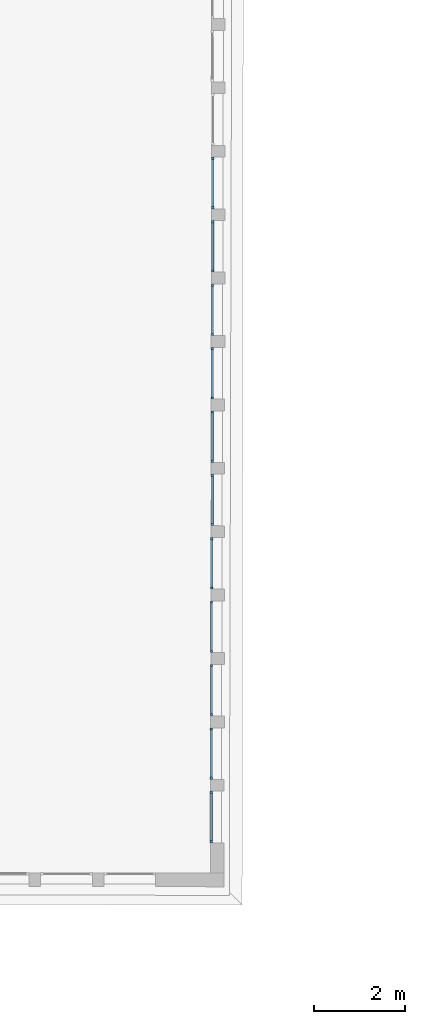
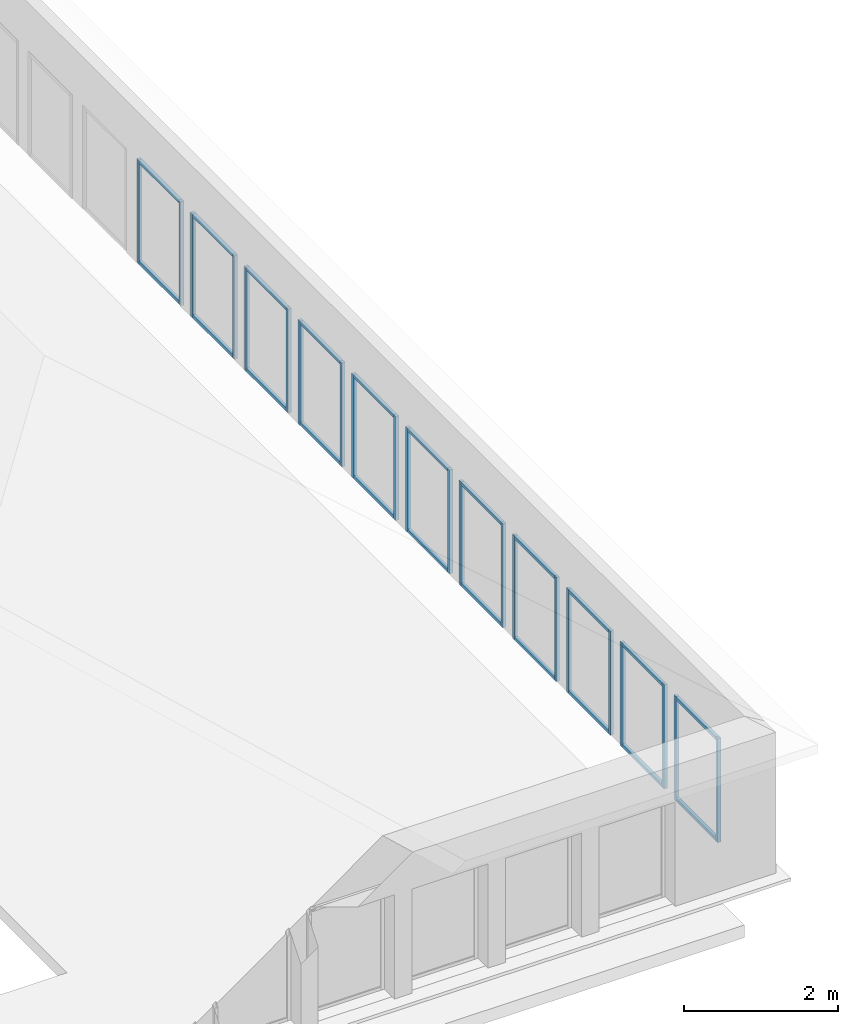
# One storey, part 11 of 26: 44 members, 11 elements without a shape of their own.
"""IFC2X3 building model written with IfcOpenShell, lengths in metres."""

from ifc_helpers import new_model, entity, si_unit, converted_unit, derived_unit, direction, frame, origin, origin_2d_with_axis, place, context, subcontext, project, spatial, rectangle, extrude, source, transform, mapped, material, type_object, type_shapes, element, aggregate, save


model = new_model("IFC2X3")

# Units and contexts
model_context = context("Model", 3, precision=1e-05, world=origin(), true_north=direction((6.123233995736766e-17, 1.0)))
body_context = subcontext(model_context, "Body", "Model", "MODEL_VIEW")
ifc_project = project(units=[si_unit("LENGTHUNIT", "METRE"), si_unit("AREAUNIT", "SQUARE_METRE"), converted_unit("PLANEANGLEUNIT", "DEGREE", entity("IfcPlaneAngleMeasure", 0.017453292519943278), si_unit("PLANEANGLEUNIT", "RADIAN"), dimensions=[0, 0, 0, 0, 0, 0, 0]), derived_unit("THERMALTRANSMITTANCEUNIT", [(si_unit("MASSUNIT", "GRAM", prefix="KILO"), 1), (si_unit("THERMODYNAMICTEMPERATUREUNIT", "KELVIN"), -1), (si_unit("TIMEUNIT", "SECOND"), -3)])], contexts=[model_context])

# Site, building, storey
site_placement = place(None, frame((1253.6752467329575, 2072.143113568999, 91.49999999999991), z_axis=(0.0, 0.0, 1.0), x_axis=(0.7237211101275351, 0.6900925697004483, 0.0)))
site = spatial("IfcSite", under=ifc_project, at=site_placement, Name="Surface", CompositionType="ELEMENT")
building_placement = place(site_placement, origin())
building = spatial("IfcBuilding", under=site, at=building_placement, CompositionType="ELEMENT")
storey_placement = place(building_placement, frame((0.0, 0.0, 7.0)))
storey = spatial("IfcBuildingStorey", under=building, at=storey_placement, Name="2-R+2", CompositionType="ELEMENT", Elevation=6.999999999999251)

# Curtain wall, member
curtain_wall_type = type_object("IfcCurtainWallType", Name="Mur-rideau:Menuiserie Ext 1F+1OB VERTIC", PredefinedType="NOTDEFINED")
curtain_wall_1_placement = place(storey_placement, frame((0.0, 0.0, -7.0)))
curtain_wall_1 = element("IfcCurtainWall", 1, at=curtain_wall_1_placement, inside=storey, type_object=curtain_wall_type, Name="Mur-rideau:Menuiserie Ext 1F+1OB VERTIC", ObjectType="Mur-rideau:Menuiserie Ext 1F+1OB VERTIC")
ifc_material = material(Name="OMD_Aluminium Men Ext")
member_type_1 = type_object("IfcMemberType", Name="Meneau rectangulaire:50x50", PredefinedType="MULLION", material=ifc_material)
shared_shape_1 = source(origin(), body_context, "Body", "SweptSolid", [
    extrude(rectangle(XDim=0.05, YDim=0.049999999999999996, at=origin_2d_with_axis()), frame((-0.025, 0.0, -1.6499999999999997), z_axis=(0.0, 0.0, 1.0), x_axis=(-1.0, 0.0, 0.0)), (0.0, 0.0, 1.0), 1.6499999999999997),
])
type_shapes(member_type_1, [shared_shape_1])
member_1_placement = place(curtain_wall_1_placement, frame((190.23566403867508, -17.83164811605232, 7.9), z_axis=(0.0, 0.0, -1.0), x_axis=(0.6909838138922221, 0.7228702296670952, 0.0)))
member_1 = element("IfcMember", 2, at=member_1_placement, type_object=member_type_1, material=ifc_material, Name="Meneau rectangulaire:50x50", ObjectType="Meneau rectangulaire:50x50", context=body_context, shape_type="MappedRepresentation", body=[
    mapped(shared_shape_1, transform((0.0, 0.0, 0.0), scale=1.0)),
])

curtain_wall_2_placement = place(storey_placement, frame((0.0, 0.0, -7.0)))
curtain_wall_2 = element("IfcCurtainWall", 3, at=curtain_wall_2_placement, inside=storey, type_object=curtain_wall_type, Name="Mur-rideau:Menuiserie Ext 1F+1OB VERTIC", ObjectType="Mur-rideau:Menuiserie Ext 1F+1OB VERTIC")
member_2_placement = place(curtain_wall_2_placement, frame((189.26689855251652, -18.842337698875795, 7.9), z_axis=(0.0, 0.0, -1.0), x_axis=(0.6909838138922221, 0.7228702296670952, 0.0)))
member_2 = element("IfcMember", 4, at=member_2_placement, type_object=member_type_1, material=ifc_material, Name="Meneau rectangulaire:50x50", ObjectType="Meneau rectangulaire:50x50", context=body_context, shape_type="MappedRepresentation", body=[
    mapped(shared_shape_1, transform((0.0, 0.0, 0.0), scale=1.0)),
])

curtain_wall_3_placement = place(storey_placement, frame((0.0, 0.0, -7.0)))
curtain_wall_3 = element("IfcCurtainWall", 5, at=curtain_wall_3_placement, inside=storey, type_object=curtain_wall_type, Name="Mur-rideau:Menuiserie Ext 1F+1OB VERTIC", ObjectType="Mur-rideau:Menuiserie Ext 1F+1OB VERTIC")
member_3_placement = place(curtain_wall_3_placement, frame((188.29813306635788, -19.853027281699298, 7.9), z_axis=(0.0, 0.0, -1.0), x_axis=(0.6909838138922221, 0.7228702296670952, 0.0)))
member_3 = element("IfcMember", 6, at=member_3_placement, type_object=member_type_1, material=ifc_material, Name="Meneau rectangulaire:50x50", ObjectType="Meneau rectangulaire:50x50", context=body_context, shape_type="MappedRepresentation", body=[
    mapped(shared_shape_1, transform((0.0, 0.0, 0.0), scale=1.0)),
])

curtain_wall_4_placement = place(storey_placement, frame((0.0, 0.0, -7.0)))
curtain_wall_4 = element("IfcCurtainWall", 7, at=curtain_wall_4_placement, inside=storey, type_object=curtain_wall_type, Name="Mur-rideau:Menuiserie Ext 1F+1OB VERTIC", ObjectType="Mur-rideau:Menuiserie Ext 1F+1OB VERTIC")
member_4_placement = place(curtain_wall_4_placement, frame((187.3293675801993, -20.863716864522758, 7.9), z_axis=(0.0, 0.0, -1.0), x_axis=(0.6909838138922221, 0.7228702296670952, 0.0)))
member_4 = element("IfcMember", 8, at=member_4_placement, type_object=member_type_1, material=ifc_material, Name="Meneau rectangulaire:50x50", ObjectType="Meneau rectangulaire:50x50", context=body_context, shape_type="MappedRepresentation", body=[
    mapped(shared_shape_1, transform((0.0, 0.0, 0.0), scale=1.0)),
])

curtain_wall_5_placement = place(storey_placement, frame((0.0, 0.0, -7.0)))
curtain_wall_5 = element("IfcCurtainWall", 9, at=curtain_wall_5_placement, inside=storey, type_object=curtain_wall_type, Name="Mur-rideau:Menuiserie Ext 1F+1OB VERTIC", ObjectType="Mur-rideau:Menuiserie Ext 1F+1OB VERTIC")
member_5_placement = place(curtain_wall_5_placement, frame((186.3606020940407, -21.874406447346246, 7.9), z_axis=(0.0, 0.0, -1.0), x_axis=(0.6909838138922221, 0.7228702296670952, 0.0)))
member_5 = element("IfcMember", 10, at=member_5_placement, type_object=member_type_1, material=ifc_material, Name="Meneau rectangulaire:50x50", ObjectType="Meneau rectangulaire:50x50", context=body_context, shape_type="MappedRepresentation", body=[
    mapped(shared_shape_1, transform((0.0, 0.0, 0.0), scale=1.0)),
])

curtain_wall_6_placement = place(storey_placement, frame((0.0, 0.0, -7.0)))
curtain_wall_6 = element("IfcCurtainWall", 11, at=curtain_wall_6_placement, inside=storey, type_object=curtain_wall_type, Name="Mur-rideau:Menuiserie Ext 1F+1OB VERTIC", ObjectType="Mur-rideau:Menuiserie Ext 1F+1OB VERTIC")
member_6_placement = place(curtain_wall_6_placement, frame((185.39794625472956, -22.885947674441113, 7.9), z_axis=(0.0, 0.0, -1.0), x_axis=(0.6909838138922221, 0.7228702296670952, 0.0)))
member_6 = element("IfcMember", 12, at=member_6_placement, type_object=member_type_1, material=ifc_material, Name="Meneau rectangulaire:50x50", ObjectType="Meneau rectangulaire:50x50", context=body_context, shape_type="MappedRepresentation", body=[
    mapped(shared_shape_1, transform((0.0, 0.0, 0.0), scale=1.0)),
])

curtain_wall_7_placement = place(storey_placement, frame((0.0, 0.0, -7.0)))
curtain_wall_7 = element("IfcCurtainWall", 13, at=curtain_wall_7_placement, inside=storey, type_object=curtain_wall_type, Name="Mur-rideau:Menuiserie Ext 1F+1OB VERTIC", ObjectType="Mur-rideau:Menuiserie Ext 1F+1OB VERTIC")
member_7_placement = place(curtain_wall_7_placement, frame((184.425571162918, -23.89317738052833, 7.9), z_axis=(0.0, 0.0, -1.0), x_axis=(0.6909838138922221, 0.7228702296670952, 0.0)))
member_7 = element("IfcMember", 14, at=member_7_placement, type_object=member_type_1, material=ifc_material, Name="Meneau rectangulaire:50x50", ObjectType="Meneau rectangulaire:50x50", context=body_context, shape_type="MappedRepresentation", body=[
    mapped(shared_shape_1, transform((0.0, 0.0, 0.0), scale=1.0)),
])

curtain_wall_8_placement = place(storey_placement, frame((0.0, 0.0, -7.0)))
curtain_wall_8 = element("IfcCurtainWall", 15, at=curtain_wall_8_placement, inside=storey, type_object=curtain_wall_type, Name="Mur-rideau:Menuiserie Ext 1F+1OB VERTIC", ObjectType="Mur-rideau:Menuiserie Ext 1F+1OB VERTIC")
member_8_placement = place(curtain_wall_8_placement, frame((183.45319607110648, -24.900407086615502, 7.9), z_axis=(0.0, 0.0, -1.0), x_axis=(0.6909838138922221, 0.7228702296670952, 0.0)))
member_8 = element("IfcMember", 16, at=member_8_placement, type_object=member_type_1, material=ifc_material, Name="Meneau rectangulaire:50x50", ObjectType="Meneau rectangulaire:50x50", context=body_context, shape_type="MappedRepresentation", body=[
    mapped(shared_shape_1, transform((0.0, 0.0, 0.0), scale=1.0)),
])

curtain_wall_9_placement = place(storey_placement, frame((0.0, 0.0, -7.0)))
curtain_wall_9 = element("IfcCurtainWall", 17, at=curtain_wall_9_placement, inside=storey, type_object=curtain_wall_type, Name="Mur-rideau:Menuiserie Ext 1F+1OB VERTIC", ObjectType="Mur-rideau:Menuiserie Ext 1F+1OB VERTIC")
member_9_placement = place(curtain_wall_9_placement, frame((182.48804019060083, -25.91455654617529, 7.9), z_axis=(0.0, 0.0, -1.0), x_axis=(0.6909838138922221, 0.7228702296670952, 0.0)))
member_9 = element("IfcMember", 18, at=member_9_placement, type_object=member_type_1, material=ifc_material, Name="Meneau rectangulaire:50x50", ObjectType="Meneau rectangulaire:50x50", context=body_context, shape_type="MappedRepresentation", body=[
    mapped(shared_shape_1, transform((0.0, 0.0, 0.0), scale=1.0)),
])

curtain_wall_10_placement = place(storey_placement, frame((0.0, 0.0, -7.0)))
curtain_wall_10 = element("IfcCurtainWall", 19, at=curtain_wall_10_placement, inside=storey, type_object=curtain_wall_type, Name="Mur-rideau:Menuiserie Ext 1F+1OB VERTIC", ObjectType="Mur-rideau:Menuiserie Ext 1F+1OB VERTIC")
member_10_placement = place(curtain_wall_10_placement, frame((181.51927470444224, -26.92524612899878, 7.9), z_axis=(0.0, 0.0, -1.0), x_axis=(0.6909838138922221, 0.7228702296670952, 0.0)))
member_10 = element("IfcMember", 20, at=member_10_placement, type_object=member_type_1, material=ifc_material, Name="Meneau rectangulaire:50x50", ObjectType="Meneau rectangulaire:50x50", context=body_context, shape_type="MappedRepresentation", body=[
    mapped(shared_shape_1, transform((0.0, 0.0, 0.0), scale=1.0)),
])

curtain_wall_11_placement = place(storey_placement, frame((0.0, 0.0, -7.0)))
curtain_wall_11 = element("IfcCurtainWall", 21, at=curtain_wall_11_placement, inside=storey, type_object=curtain_wall_type, Name="Mur-rideau:Menuiserie Ext 1F+1OB VERTIC", ObjectType="Mur-rideau:Menuiserie Ext 1F+1OB VERTIC")
member_11_placement = place(curtain_wall_11_placement, frame((180.5505033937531, -27.93594178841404, 7.9), z_axis=(0.0, 0.0, -1.0), x_axis=(0.6909838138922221, 0.7228702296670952, 0.0)))
member_11 = element("IfcMember", 22, at=member_11_placement, type_object=member_type_1, material=ifc_material, Name="Meneau rectangulaire:50x50", ObjectType="Meneau rectangulaire:50x50", context=body_context, shape_type="MappedRepresentation", body=[
    mapped(shared_shape_1, transform((0.0, 0.0, 0.0), scale=1.0)),
])

# Member
member_type_2 = type_object("IfcMemberType", Name="Meneau rectangulaire:50x50", PredefinedType="MULLION", material=ifc_material)
shared_shape_2 = source(origin(), body_context, "Body", "SweptSolid", [
    extrude(rectangle(XDim=0.05, YDim=0.049999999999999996, at=origin_2d_with_axis()), frame((-0.025, 0.0, -1.6499999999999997), z_axis=(0.0, 0.0, 1.0), x_axis=(-1.0, 0.0, 0.0)), (0.0, 0.0, 1.0), 1.6499999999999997),
])
type_shapes(member_type_2, [shared_shape_2])
member_12_placement = place(curtain_wall_1_placement, frame((189.447942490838, -18.655720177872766, 9.55), z_axis=(0.0, 0.0, 1.0), x_axis=(-0.6909838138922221, -0.7228702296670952, 0.0)))
member_12 = element("IfcMember", 23, at=member_12_placement, type_object=member_type_2, material=ifc_material, Name="Meneau rectangulaire:50x50", ObjectType="Meneau rectangulaire:50x50", context=body_context, shape_type="MappedRepresentation", body=[
    mapped(shared_shape_2, transform((0.0, 0.0, 0.0), scale=1.0)),
])

member_13_placement = place(curtain_wall_2_placement, frame((188.4791770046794, -19.666409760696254, 9.55), z_axis=(0.0, 0.0, 1.0), x_axis=(-0.6909838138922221, -0.7228702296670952, 0.0)))
member_13 = element("IfcMember", 24, at=member_13_placement, type_object=member_type_2, material=ifc_material, Name="Meneau rectangulaire:50x50", ObjectType="Meneau rectangulaire:50x50", context=body_context, shape_type="MappedRepresentation", body=[
    mapped(shared_shape_2, transform((0.0, 0.0, 0.0), scale=1.0)),
])

member_14_placement = place(curtain_wall_3_placement, frame((187.51041151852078, -20.677099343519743, 9.55), z_axis=(0.0, 0.0, 1.0), x_axis=(-0.6909838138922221, -0.7228702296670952, 0.0)))
member_14 = element("IfcMember", 25, at=member_14_placement, type_object=member_type_2, material=ifc_material, Name="Meneau rectangulaire:50x50", ObjectType="Meneau rectangulaire:50x50", context=body_context, shape_type="MappedRepresentation", body=[
    mapped(shared_shape_2, transform((0.0, 0.0, 0.0), scale=1.0)),
])

member_15_placement = place(curtain_wall_4_placement, frame((186.54164603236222, -21.68778892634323, 9.55), z_axis=(0.0, 0.0, 1.0), x_axis=(-0.6909838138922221, -0.7228702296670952, 0.0)))
member_15 = element("IfcMember", 26, at=member_15_placement, type_object=member_type_2, material=ifc_material, Name="Meneau rectangulaire:50x50", ObjectType="Meneau rectangulaire:50x50", context=body_context, shape_type="MappedRepresentation", body=[
    mapped(shared_shape_2, transform((0.0, 0.0, 0.0), scale=1.0)),
])

member_16_placement = place(curtain_wall_5_placement, frame((185.57288054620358, -22.69847850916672, 9.55), z_axis=(0.0, 0.0, 1.0), x_axis=(-0.6909838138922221, -0.7228702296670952, 0.0)))
member_16 = element("IfcMember", 27, at=member_16_placement, type_object=member_type_2, material=ifc_material, Name="Meneau rectangulaire:50x50", ObjectType="Meneau rectangulaire:50x50", context=body_context, shape_type="MappedRepresentation", body=[
    mapped(shared_shape_2, transform((0.0, 0.0, 0.0), scale=1.0)),
])

member_17_placement = place(curtain_wall_6_placement, frame((184.61022470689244, -23.710019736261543, 9.55), z_axis=(0.0, 0.0, 1.0), x_axis=(-0.6909838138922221, -0.7228702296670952, 0.0)))
member_17 = element("IfcMember", 28, at=member_17_placement, type_object=member_type_2, material=ifc_material, Name="Meneau rectangulaire:50x50", ObjectType="Meneau rectangulaire:50x50", context=body_context, shape_type="MappedRepresentation", body=[
    mapped(shared_shape_2, transform((0.0, 0.0, 0.0), scale=1.0)),
])

member_18_placement = place(curtain_wall_7_placement, frame((183.63784961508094, -24.717249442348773, 9.55), z_axis=(0.0, 0.0, 1.0), x_axis=(-0.6909838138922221, -0.7228702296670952, 0.0)))
member_18 = element("IfcMember", 29, at=member_18_placement, type_object=member_type_2, material=ifc_material, Name="Meneau rectangulaire:50x50", ObjectType="Meneau rectangulaire:50x50", context=body_context, shape_type="MappedRepresentation", body=[
    mapped(shared_shape_2, transform((0.0, 0.0, 0.0), scale=1.0)),
])

member_19_placement = place(curtain_wall_8_placement, frame((182.66547452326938, -25.724479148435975, 9.55), z_axis=(0.0, 0.0, 1.0), x_axis=(-0.6909838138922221, -0.7228702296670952, 0.0)))
member_19 = element("IfcMember", 30, at=member_19_placement, type_object=member_type_2, material=ifc_material, Name="Meneau rectangulaire:50x50", ObjectType="Meneau rectangulaire:50x50", context=body_context, shape_type="MappedRepresentation", body=[
    mapped(shared_shape_2, transform((0.0, 0.0, 0.0), scale=1.0)),
])

member_20_placement = place(curtain_wall_9_placement, frame((181.7003186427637, -26.738628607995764, 9.55), z_axis=(0.0, 0.0, 1.0), x_axis=(-0.6909838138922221, -0.7228702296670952, 0.0)))
member_20 = element("IfcMember", 31, at=member_20_placement, type_object=member_type_2, material=ifc_material, Name="Meneau rectangulaire:50x50", ObjectType="Meneau rectangulaire:50x50", context=body_context, shape_type="MappedRepresentation", body=[
    mapped(shared_shape_2, transform((0.0, 0.0, 0.0), scale=1.0)),
])

member_21_placement = place(curtain_wall_10_placement, frame((180.73155315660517, -27.749318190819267, 9.55), z_axis=(0.0, 0.0, 1.0), x_axis=(-0.6909838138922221, -0.7228702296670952, 0.0)))
member_21 = element("IfcMember", 32, at=member_21_placement, type_object=member_type_2, material=ifc_material, Name="Meneau rectangulaire:50x50", ObjectType="Meneau rectangulaire:50x50", context=body_context, shape_type="MappedRepresentation", body=[
    mapped(shared_shape_2, transform((0.0, 0.0, 0.0), scale=1.0)),
])

member_22_placement = place(curtain_wall_11_placement, frame((179.76278184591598, -28.760013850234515, 9.55), z_axis=(0.0, 0.0, 1.0), x_axis=(-0.6909838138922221, -0.7228702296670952, 0.0)))
member_22 = element("IfcMember", 33, at=member_22_placement, type_object=member_type_2, material=ifc_material, Name="Meneau rectangulaire:50x50", ObjectType="Meneau rectangulaire:50x50", context=body_context, shape_type="MappedRepresentation", body=[
    mapped(shared_shape_2, transform((0.0, 0.0, 0.0), scale=1.0)),
])

member_type_3 = type_object("IfcMemberType", Name="Meneau rectangulaire:50x50", PredefinedType="MULLION", material=ifc_material)
shared_shape_3 = source(origin(), body_context, "Body", "SweptSolid", [
    extrude(rectangle(XDim=0.05, YDim=0.049999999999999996, at=origin_2d_with_axis()), frame((-0.025, 0.0, -1.0399999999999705), z_axis=(0.0, 0.0, 1.0), x_axis=(-1.0, 0.0, 0.0)), (0.0, 0.0, 1.0), 1.0399999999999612),
])
type_shapes(member_type_3, [shared_shape_3])
member_23_placement = place(curtain_wall_1_placement, frame((190.20111484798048, -17.86779162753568, 9.55), z_axis=(0.6909838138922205, 0.7228702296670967, 0.0), x_axis=(0.0, 0.0, 1.0)))
member_23 = element("IfcMember", 34, at=member_23_placement, type_object=member_type_3, material=ifc_material, Name="Meneau rectangulaire:50x50", ObjectType="Meneau rectangulaire:50x50", context=body_context, shape_type="MappedRepresentation", body=[
    mapped(shared_shape_3, transform((0.0, 0.0, 0.0), scale=1.0)),
])

member_24_placement = place(curtain_wall_2_placement, frame((189.2323493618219, -18.87848121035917, 9.55), z_axis=(0.6909838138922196, 0.7228702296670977, 0.0), x_axis=(0.0, 0.0, 1.0)))
member_24 = element("IfcMember", 35, at=member_24_placement, type_object=member_type_3, material=ifc_material, Name="Meneau rectangulaire:50x50", ObjectType="Meneau rectangulaire:50x50", context=body_context, shape_type="MappedRepresentation", body=[
    mapped(shared_shape_3, transform((0.0, 0.0, 0.0), scale=1.0)),
])

member_25_placement = place(curtain_wall_3_placement, frame((188.2635838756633, -19.88917079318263, 9.55), z_axis=(0.6909838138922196, 0.7228702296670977, 0.0), x_axis=(0.0, 0.0, 1.0)))
member_25 = element("IfcMember", 36, at=member_25_placement, type_object=member_type_3, material=ifc_material, Name="Meneau rectangulaire:50x50", ObjectType="Meneau rectangulaire:50x50", context=body_context, shape_type="MappedRepresentation", body=[
    mapped(shared_shape_3, transform((0.0, 0.0, 0.0), scale=1.0)),
])

member_26_placement = place(curtain_wall_4_placement, frame((187.2948183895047, -20.89986037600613, 9.55), z_axis=(0.6909838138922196, 0.7228702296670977, 0.0), x_axis=(0.0, 0.0, 1.0)))
member_26 = element("IfcMember", 37, at=member_26_placement, type_object=member_type_3, material=ifc_material, Name="Meneau rectangulaire:50x50", ObjectType="Meneau rectangulaire:50x50", context=body_context, shape_type="MappedRepresentation", body=[
    mapped(shared_shape_3, transform((0.0, 0.0, 0.0), scale=1.0)),
])

member_27_placement = place(curtain_wall_5_placement, frame((186.3260529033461, -21.910549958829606, 9.55), z_axis=(0.6909838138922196, 0.7228702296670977, 0.0), x_axis=(0.0, 0.0, 1.0)))
member_27 = element("IfcMember", 38, at=member_27_placement, type_object=member_type_3, material=ifc_material, Name="Meneau rectangulaire:50x50", ObjectType="Meneau rectangulaire:50x50", context=body_context, shape_type="MappedRepresentation", body=[
    mapped(shared_shape_3, transform((0.0, 0.0, 0.0), scale=1.0)),
])

member_28_placement = place(curtain_wall_6_placement, frame((185.36339706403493, -22.922091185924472, 9.55), z_axis=(0.6909838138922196, 0.7228702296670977, 0.0), x_axis=(0.0, 0.0, 1.0)))
member_28 = element("IfcMember", 39, at=member_28_placement, type_object=member_type_3, material=ifc_material, Name="Meneau rectangulaire:50x50", ObjectType="Meneau rectangulaire:50x50", context=body_context, shape_type="MappedRepresentation", body=[
    mapped(shared_shape_3, transform((0.0, 0.0, 0.0), scale=1.0)),
])

member_29_placement = place(curtain_wall_7_placement, frame((184.39102197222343, -23.929320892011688, 9.55), z_axis=(0.6909838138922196, 0.7228702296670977, 0.0), x_axis=(0.0, 0.0, 1.0)))
member_29 = element("IfcMember", 40, at=member_29_placement, type_object=member_type_3, material=ifc_material, Name="Meneau rectangulaire:50x50", ObjectType="Meneau rectangulaire:50x50", context=body_context, shape_type="MappedRepresentation", body=[
    mapped(shared_shape_3, transform((0.0, 0.0, 0.0), scale=1.0)),
])

member_30_placement = place(curtain_wall_8_placement, frame((183.41864688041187, -24.93655059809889, 9.55), z_axis=(0.6909838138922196, 0.7228702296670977, 0.0), x_axis=(0.0, 0.0, 1.0)))
member_30 = element("IfcMember", 41, at=member_30_placement, type_object=member_type_3, material=ifc_material, Name="Meneau rectangulaire:50x50", ObjectType="Meneau rectangulaire:50x50", context=body_context, shape_type="MappedRepresentation", body=[
    mapped(shared_shape_3, transform((0.0, 0.0, 0.0), scale=1.0)),
])

member_31_placement = place(curtain_wall_9_placement, frame((182.45349099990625, -25.95070005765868, 9.55), z_axis=(0.6909838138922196, 0.7228702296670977, 0.0), x_axis=(0.0, 0.0, 1.0)))
member_31 = element("IfcMember", 42, at=member_31_placement, type_object=member_type_3, material=ifc_material, Name="Meneau rectangulaire:50x50", ObjectType="Meneau rectangulaire:50x50", context=body_context, shape_type="MappedRepresentation", body=[
    mapped(shared_shape_3, transform((0.0, 0.0, 0.0), scale=1.0)),
])

member_32_placement = place(curtain_wall_10_placement, frame((181.48472551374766, -26.961389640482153, 9.55), z_axis=(0.6909838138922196, 0.7228702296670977, 0.0), x_axis=(0.0, 0.0, 1.0)))
member_32 = element("IfcMember", 43, at=member_32_placement, type_object=member_type_3, material=ifc_material, Name="Meneau rectangulaire:50x50", ObjectType="Meneau rectangulaire:50x50", context=body_context, shape_type="MappedRepresentation", body=[
    mapped(shared_shape_3, transform((0.0, 0.0, 0.0), scale=1.0)),
])

member_33_placement = place(curtain_wall_11_placement, frame((180.5159542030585, -27.9720852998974, 9.55), z_axis=(0.6909838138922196, 0.7228702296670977, 0.0), x_axis=(0.0, 0.0, 1.0)))
member_33 = element("IfcMember", 44, at=member_33_placement, type_object=member_type_3, material=ifc_material, Name="Meneau rectangulaire:50x50", ObjectType="Meneau rectangulaire:50x50", context=body_context, shape_type="MappedRepresentation", body=[
    mapped(shared_shape_3, transform((0.0, 0.0, 0.0), scale=1.0)),
])

member_type_4 = type_object("IfcMemberType", Name="Meneau rectangulaire:50x50", PredefinedType="MULLION", material=ifc_material)
shared_shape_4 = source(origin(), body_context, "Body", "SweptSolid", [
    extrude(rectangle(XDim=0.05, YDim=0.05, at=origin_2d_with_axis()), frame((-0.025, 0.0, -1.0399999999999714), z_axis=(0.0, 0.0, 1.0), x_axis=(-1.0, 0.0, 0.0)), (0.0, 0.0, 1.0), 1.0399999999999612),
])
type_shapes(member_type_4, [shared_shape_4])
member_34_placement = place(curtain_wall_1_placement, frame((189.4824916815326, -18.61957666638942, 7.9), z_axis=(-0.6909838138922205, -0.7228702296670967, 0.0), x_axis=(0.0, 0.0, -1.0)))
member_34 = element("IfcMember", 45, at=member_34_placement, type_object=member_type_4, material=ifc_material, Name="Meneau rectangulaire:50x50", ObjectType="Meneau rectangulaire:50x50", context=body_context, shape_type="MappedRepresentation", body=[
    mapped(shared_shape_4, transform((0.0, 0.0, 0.0), scale=1.0)),
])

aggregate(curtain_wall_1, [member_23, member_34, member_1, member_12])

member_35_placement = place(curtain_wall_2_placement, frame((188.51372619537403, -19.630266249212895, 7.9), z_axis=(-0.6909838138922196, -0.7228702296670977, 0.0), x_axis=(0.0, 0.0, -1.0)))
member_35 = element("IfcMember", 46, at=member_35_placement, type_object=member_type_4, material=ifc_material, Name="Meneau rectangulaire:50x50", ObjectType="Meneau rectangulaire:50x50", context=body_context, shape_type="MappedRepresentation", body=[
    mapped(shared_shape_4, transform((0.0, 0.0, 0.0), scale=1.0)),
])

aggregate(curtain_wall_2, [member_24, member_35, member_2, member_13])

member_36_placement = place(curtain_wall_3_placement, frame((187.54496070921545, -20.640955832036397, 7.9), z_axis=(-0.6909838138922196, -0.7228702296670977, 0.0), x_axis=(0.0, 0.0, -1.0)))
member_36 = element("IfcMember", 47, at=member_36_placement, type_object=member_type_4, material=ifc_material, Name="Meneau rectangulaire:50x50", ObjectType="Meneau rectangulaire:50x50", context=body_context, shape_type="MappedRepresentation", body=[
    mapped(shared_shape_4, transform((0.0, 0.0, 0.0), scale=1.0)),
])

aggregate(curtain_wall_3, [member_25, member_36, member_3, member_14])

member_37_placement = place(curtain_wall_4_placement, frame((186.57619522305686, -21.65164541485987, 7.9), z_axis=(-0.6909838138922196, -0.7228702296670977, 0.0), x_axis=(0.0, 0.0, -1.0)))
member_37 = element("IfcMember", 48, at=member_37_placement, type_object=member_type_4, material=ifc_material, Name="Meneau rectangulaire:50x50", ObjectType="Meneau rectangulaire:50x50", context=body_context, shape_type="MappedRepresentation", body=[
    mapped(shared_shape_4, transform((0.0, 0.0, 0.0), scale=1.0)),
])

aggregate(curtain_wall_4, [member_26, member_37, member_4, member_15])

member_38_placement = place(curtain_wall_5_placement, frame((185.6074297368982, -22.662334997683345, 7.9), z_axis=(-0.6909838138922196, -0.7228702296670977, 0.0), x_axis=(0.0, 0.0, -1.0)))
member_38 = element("IfcMember", 49, at=member_38_placement, type_object=member_type_4, material=ifc_material, Name="Meneau rectangulaire:50x50", ObjectType="Meneau rectangulaire:50x50", context=body_context, shape_type="MappedRepresentation", body=[
    mapped(shared_shape_4, transform((0.0, 0.0, 0.0), scale=1.0)),
])

aggregate(curtain_wall_5, [member_27, member_38, member_5, member_16])

member_39_placement = place(curtain_wall_6_placement, frame((184.64477389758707, -23.673876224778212, 7.9), z_axis=(-0.6909838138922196, -0.7228702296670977, 0.0), x_axis=(0.0, 0.0, -1.0)))
member_39 = element("IfcMember", 50, at=member_39_placement, type_object=member_type_4, material=ifc_material, Name="Meneau rectangulaire:50x50", ObjectType="Meneau rectangulaire:50x50", context=body_context, shape_type="MappedRepresentation", body=[
    mapped(shared_shape_4, transform((0.0, 0.0, 0.0), scale=1.0)),
])

aggregate(curtain_wall_6, [member_28, member_39, member_6, member_17])

member_40_placement = place(curtain_wall_7_placement, frame((183.67239880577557, -24.681105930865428, 7.9), z_axis=(-0.6909838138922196, -0.7228702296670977, 0.0), x_axis=(0.0, 0.0, -1.0)))
member_40 = element("IfcMember", 51, at=member_40_placement, type_object=member_type_4, material=ifc_material, Name="Meneau rectangulaire:50x50", ObjectType="Meneau rectangulaire:50x50", context=body_context, shape_type="MappedRepresentation", body=[
    mapped(shared_shape_4, transform((0.0, 0.0, 0.0), scale=1.0)),
])

aggregate(curtain_wall_7, [member_29, member_40, member_7, member_18])

member_41_placement = place(curtain_wall_8_placement, frame((182.70002371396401, -25.68833563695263, 7.9), z_axis=(-0.6909838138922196, -0.7228702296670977, 0.0), x_axis=(0.0, 0.0, -1.0)))
member_41 = element("IfcMember", 52, at=member_41_placement, type_object=member_type_4, material=ifc_material, Name="Meneau rectangulaire:50x50", ObjectType="Meneau rectangulaire:50x50", context=body_context, shape_type="MappedRepresentation", body=[
    mapped(shared_shape_4, transform((0.0, 0.0, 0.0), scale=1.0)),
])

aggregate(curtain_wall_8, [member_30, member_41, member_8, member_19])

member_42_placement = place(curtain_wall_9_placement, frame((181.7348678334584, -26.702485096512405, 7.9), z_axis=(-0.6909838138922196, -0.7228702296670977, 0.0), x_axis=(0.0, 0.0, -1.0)))
member_42 = element("IfcMember", 53, at=member_42_placement, type_object=member_type_4, material=ifc_material, Name="Meneau rectangulaire:50x50", ObjectType="Meneau rectangulaire:50x50", context=body_context, shape_type="MappedRepresentation", body=[
    mapped(shared_shape_4, transform((0.0, 0.0, 0.0), scale=1.0)),
])

aggregate(curtain_wall_9, [member_31, member_42, member_9, member_20])

member_43_placement = place(curtain_wall_10_placement, frame((180.7661023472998, -27.713174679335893, 7.9), z_axis=(-0.6909838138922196, -0.7228702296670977, 0.0), x_axis=(0.0, 0.0, -1.0)))
member_43 = element("IfcMember", 54, at=member_43_placement, type_object=member_type_4, material=ifc_material, Name="Meneau rectangulaire:50x50", ObjectType="Meneau rectangulaire:50x50", context=body_context, shape_type="MappedRepresentation", body=[
    mapped(shared_shape_4, transform((0.0, 0.0, 0.0), scale=1.0)),
])

aggregate(curtain_wall_10, [member_32, member_43, member_10, member_21])

member_44_placement = place(curtain_wall_11_placement, frame((179.79733103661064, -28.723870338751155, 7.9), z_axis=(-0.6909838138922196, -0.7228702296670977, 0.0), x_axis=(0.0, 0.0, -1.0)))
member_44 = element("IfcMember", 55, at=member_44_placement, type_object=member_type_4, material=ifc_material, Name="Meneau rectangulaire:50x50", ObjectType="Meneau rectangulaire:50x50", context=body_context, shape_type="MappedRepresentation", body=[
    mapped(shared_shape_4, transform((0.0, 0.0, 0.0), scale=1.0)),
])

aggregate(curtain_wall_11, [member_33, member_44, member_11, member_22])

save(model, "model.ifc")
